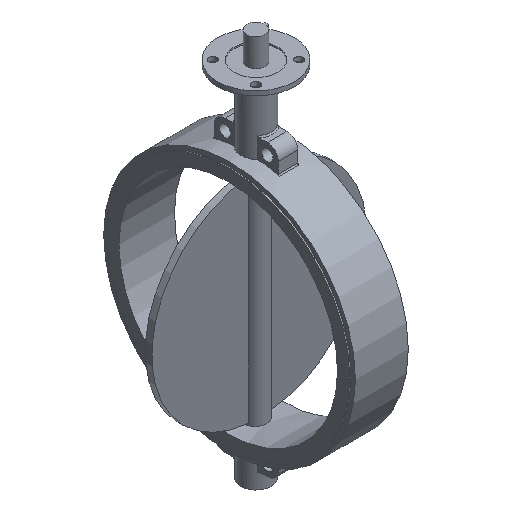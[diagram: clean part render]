
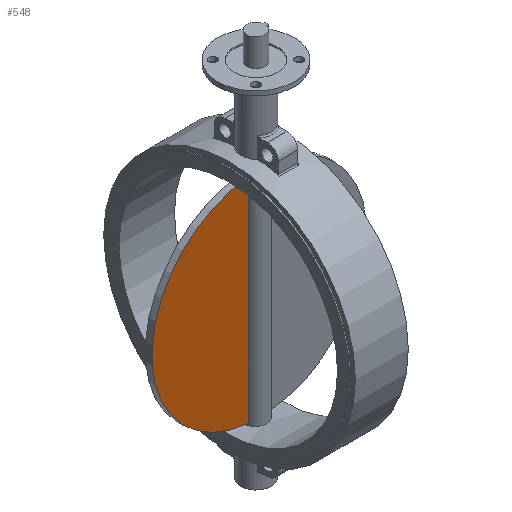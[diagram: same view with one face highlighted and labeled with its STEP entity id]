
A CAD part, isometric view. The second image highlights one B-rep face of the part: STEP entity #548.
In plain terms, the highlighted planar face has unit normal (0, -1, 0).
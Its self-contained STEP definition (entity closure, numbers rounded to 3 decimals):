
#548=ADVANCED_FACE('',(#1309),#1311,.T.);
#1309=FACE_BOUND('',#1310,.T.);
#1310=EDGE_LOOP('',(#1842,#1843));
#1311=PLANE('',#1312);
#1312=AXIS2_PLACEMENT_3D('',#1313,#1314,#1315);
#1313=CARTESIAN_POINT('',(0.,-7.5,0.));
#1314=DIRECTION('',(0.,-1.,0.));
#1315=DIRECTION('',(0.,0.,1.));
#1842=ORIENTED_EDGE('',*,*,#2088,.T.);
#1843=ORIENTED_EDGE('',*,*,#2121,.T.);
#2088=EDGE_CURVE('',#2380,#2377,#2381,.F.);
#2121=EDGE_CURVE('',#2377,#2380,#2424,.T.);
#2377=VERTEX_POINT('',#3901);
#2380=VERTEX_POINT('',#3943);
#2381=LINE('',#3944,#3945);
#2424=CIRCLE('',#4102,245.82);
#3901=CARTESIAN_POINT('',(-23.848,-7.5,244.66));
#3943=CARTESIAN_POINT('',(-23.848,-7.5,-244.66));
#3944=CARTESIAN_POINT('',(-23.848,-7.5,244.66));
#3945=VECTOR('',#3946,1.);
#3946=DIRECTION('',(0.,0.,-1.));
#4102=AXIS2_PLACEMENT_3D('',#4103,#4104,#4105);
#4103=CARTESIAN_POINT('',(0.,-7.5,0.));
#4104=DIRECTION('',(0.,-1.,0.));
#4105=DIRECTION('',(-0.097,0.,0.995));
